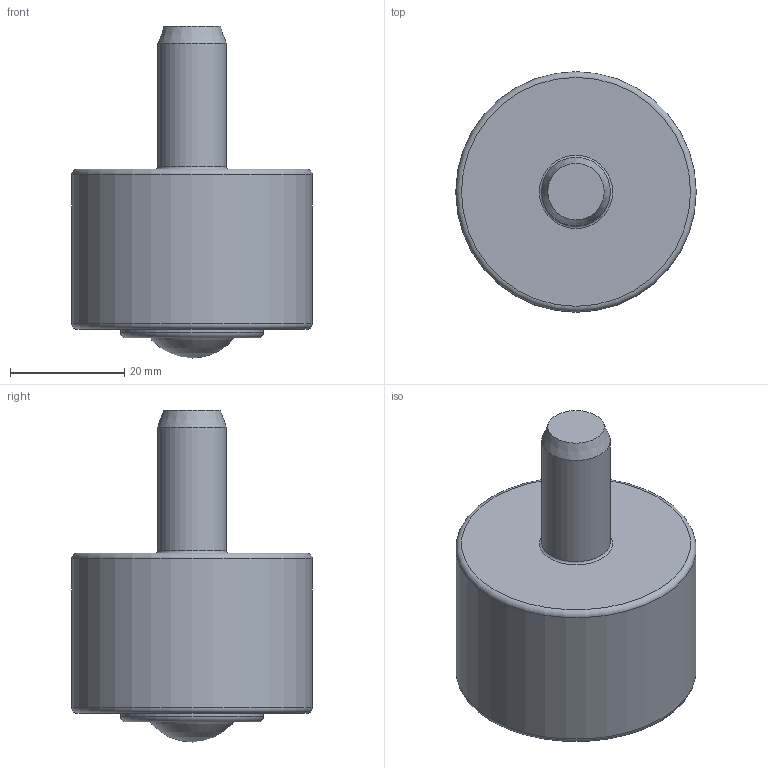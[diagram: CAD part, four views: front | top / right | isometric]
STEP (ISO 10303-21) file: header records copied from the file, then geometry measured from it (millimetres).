
FILE_DESCRIPTION(/* description */ (''),/* implementation_level */ '2;1');
FILE_NAME(/* name */ 'Z:\80-CAD共有ファイル\製品3D\X2\30C730FC30BF\X0\\12-IK-N\IK-19N.stp',/* time_stamp */ '2015-01-07T09:36:47+09:00',/* author */ ('yamaki'),/* organization */ (''),/* preprocessor_version */ 'ST-DEVELOPER v15.6',/* originating_system */ 'Autodesk Inventor 2015',/* authorisation */ '');
FILE_SCHEMA (('AUTOMOTIVE_DESIGN { 1 0 10303 214 3 1 1 }'));
Length unit declared in the file: millimetre
Products named in the file (1): 1219AA
Bounding box: 42 x 42 x 58 mm (x, y, z)
Volume: 40755.3 mm3; surface area: 9713.8 mm2
Topology: 1 solids, 2 shells, 38 faces, 79 edges, 50 vertices
Faces by surface type: cylinder 13, plane 13, torus 7, sphere 4, cone 1
Full cylindrical faces by diameter (mm): 1.6 x2, 12 x1, 16.6 x1, 25 x1, 36.1 x1, 42 x1
Entity records: 943 total; most frequent: DIRECTION 170, CARTESIAN_POINT 139, ORIENTED_EDGE 110, AXIS2_PLACEMENT_3D 76, EDGE_LOOP 62, EDGE_CURVE 55, VERTEX_POINT 45, STYLED_ITEM 39
